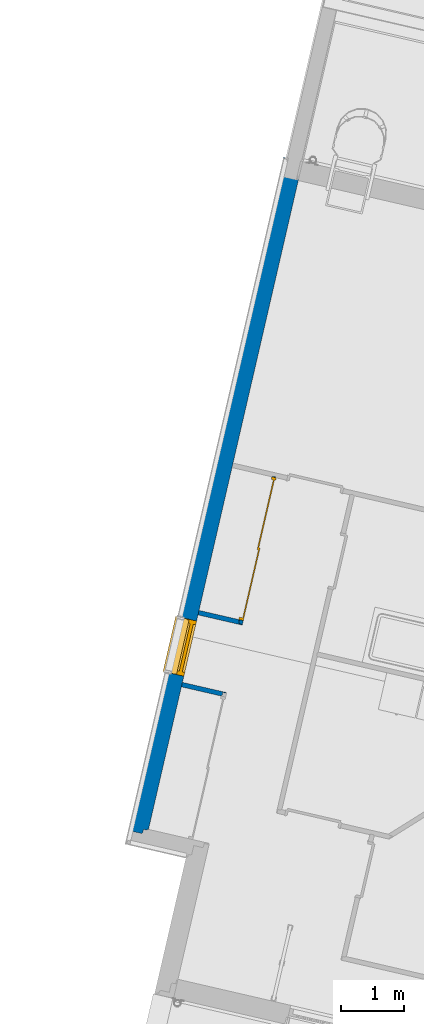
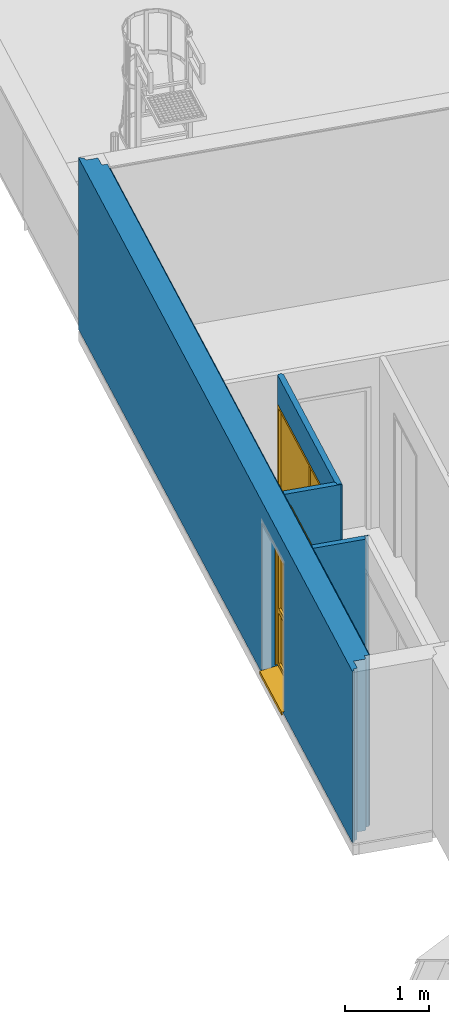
# One storey, part 7 of 47: 4 walls, 1 door, 1 window, 2 openings.
"""IFC2X3 building model written with IfcOpenShell, lengths in metres."""

from ifc_helpers import new_model, entity, si_unit, converted_unit, derived_unit, money_unit, direction, frame, origin_with_axes, place, context, subcontext, project, spatial, open_shell, faceted_brep, surface_model, material, material_list, type_object, element, fill, save


model = new_model("IFC2X3")

# Units and contexts
model_context = context("Model", 3, precision=1e-05, world=origin_with_axes(), true_north=direction((0.0, 1.0)))
body_context = subcontext(model_context, "Body", "Model", "MODEL_VIEW")
ifc_project = project(units=[si_unit("LENGTHUNIT", "METRE"), si_unit("AREAUNIT", "SQUARE_METRE"), si_unit("VOLUMEUNIT", "CUBIC_METRE"), converted_unit("PLANEANGLEUNIT", "DEGREE", entity("IfcPlaneAngleMeasure", 0.0174532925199), si_unit("PLANEANGLEUNIT", "RADIAN"), dimensions=[0, 0, 0, 0, 0, 0, 0]), si_unit("SOLIDANGLEUNIT", "STERADIAN"), money_unit("EUR"), converted_unit("TIMEUNIT", "Year", entity("IfcTimeMeasure", 31556926.0), si_unit("TIMEUNIT", "SECOND"), dimensions=[0, 0, 1, 0, 0, 0, 0]), si_unit("MASSUNIT", "GRAM", prefix="KILO"), si_unit("THERMODYNAMICTEMPERATUREUNIT", "DEGREE_CELSIUS"), si_unit("LUMINOUSINTENSITYUNIT", "LUMEN"), si_unit("ENERGYUNIT", "JOULE", prefix="MEGA"), derived_unit("THERMALCONDUCTANCEUNIT", [(si_unit("POWERUNIT", "WATT"), 1), (si_unit("LENGTHUNIT", "METRE"), -1), (si_unit("THERMODYNAMICTEMPERATUREUNIT", "KELVIN"), -1)]), derived_unit("SPECIFICHEATCAPACITYUNIT", [(si_unit("ENERGYUNIT", "JOULE"), 1), (si_unit("MASSUNIT", "GRAM", prefix="KILO"), -1), (si_unit("THERMODYNAMICTEMPERATUREUNIT", "KELVIN"), -1)]), derived_unit("MASSDENSITYUNIT", [(si_unit("MASSUNIT", "GRAM", prefix="KILO"), 1), (si_unit("VOLUMEUNIT", "CUBIC_METRE"), -1)])], contexts=[model_context])

# Site, building, storey
site_placement = place(None, origin_with_axes())
site = spatial("IfcSite", under=ifc_project, at=site_placement, Name="Site", CompositionType="ELEMENT")
building_placement = place(site_placement, origin_with_axes())
building = spatial("IfcBuilding", under=site, at=building_placement, Name="Bâtiment", CompositionType="ELEMENT")
storey_placement = place(building_placement, frame((0.0, 0.0, 10.88), z_axis=(0.0, 0.0, 1.0), x_axis=(1.0, 0.0, 0.0)))
storey = spatial("IfcBuildingStorey", under=building, at=storey_placement, Name="R+4", CompositionType="ELEMENT", Elevation=10.88)

# Wall, opening, door
ifc_material_1 = material(Name="Finition int - Plaque de plâtre")
ifc_material_2 = material(Name="Isolation - Laine de roche")
ifc_material_list_1 = material_list([ifc_material_1, ifc_material_2, ifc_material_1])
wall_type_1 = type_object("IfcWallType", Name="3 - Cloison 72mm Placostil 74", PredefinedType="USERDEFINED")
wall_1_placement = place(storey_placement, frame((-17.6332548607, -3.42021331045, 0.0), z_axis=(0.0, 0.0, 1.0), x_axis=(-0.224876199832, -0.974387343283, 0.0)))
wall_1 = element("IfcWall", 1, at=wall_1_placement, inside=storey, type_object=wall_type_1, material=ifc_material_list_1, Name="Cloison Placostil 72/48", ObjectType="PARTITIONING", context=body_context, shape_type="Brep", body=[
    faceted_brep([(2.40363159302, 0.0, 0.02), (2.40363159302, 0.0, 2.08), (0.074, 0.0, 2.08), (0.074, 0.0, 2.5), (2.47763159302, 0.0, 2.5), (2.47763159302, 0.0, 0.02), (2.40363159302, -0.013, 0.02), (2.40363159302, -0.013, 2.08), (0.074, -0.013, 2.08), (0.0739999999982, -0.013, 2.5), (2.47763159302, -0.013, 2.5), (2.47763159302, -0.013, 0.02)], [[[0, 1, 2, 3, 4, 5]], [[1, 0, 6, 7]], [[8, 2, 1, 7]], [[2, 8, 9, 3]], [[4, 3, 9, 10]], [[5, 4, 10, 11]], [[6, 0, 5, 11]], [[7, 6, 11, 10, 9, 8]]]),
    faceted_brep([(2.40363159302, -0.013, 0.02), (2.40363159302, -0.013, 2.08), (0.074, -0.013, 2.08), (0.074, -0.013, 0.02), (0.0609999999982, -0.013, 0.02), (0.0609999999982, -0.013, 2.5), (2.46463159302, -0.013, 2.5), (2.46463159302, -0.013, 0.02), (2.40363159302, -0.061, 0.02), (2.40363159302, -0.061, 2.08), (0.074, -0.061, 2.08), (0.074, -0.061, 0.02), (0.0609999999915, -0.061, 0.02), (0.0609999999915, -0.061, 2.5), (2.46463159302, -0.061, 2.5), (2.46463159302, -0.061, 0.02)], [[[0, 1, 2, 3, 4, 5, 6, 7]], [[1, 0, 8, 9]], [[2, 1, 9, 10]], [[3, 2, 10, 11]], [[3, 11, 12, 4]], [[12, 13, 5, 4]], [[6, 5, 13, 14]], [[7, 6, 14, 15]], [[8, 0, 7, 15]], [[9, 8, 15, 14, 13, 12, 11, 10]]]),
    faceted_brep([(2.40363159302, -0.061, 0.02), (2.40363159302, -0.061, 2.08), (0.074, -0.061, 2.08), (0.0739999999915, -0.061, 2.5), (2.41663159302, -0.061, 2.5), (2.41663159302, -0.061, 0.02), (2.40363159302, -0.074, 0.02), (2.40363159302, -0.074, 2.08), (0.074, -0.074, 2.08), (0.0739999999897, -0.074, 2.5), (2.41663159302, -0.074, 2.5), (2.41663159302, -0.074, 0.02)], [[[0, 1, 2, 3, 4, 5]], [[1, 0, 6, 7]], [[8, 2, 1, 7]], [[2, 8, 9, 3]], [[4, 3, 9, 10]], [[5, 4, 10, 11]], [[6, 0, 5, 11]], [[7, 6, 11, 10, 9, 8]]]),
])
opening_1_placement = place(wall_1_placement, frame((1.23881579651, 0.0, 0.0), z_axis=(0.0, 0.0, 1.0), x_axis=(1.0, 0.0, 0.0)))
opening_1 = element("IfcOpeningElement", 2, at=opening_1_placement, cuts=wall_1, Name="Por-002", context=body_context, shape_type="Brep", body=[
    faceted_brep([(1.16481579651, -0.074, 0.0), (-1.16481579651, -0.074, 0.0), (-1.16481579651, 0.074, 0.0), (1.16481579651, 0.074, 0.0), (1.16481579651, -0.074, 2.08), (-1.16481579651, -0.074, 2.08), (-1.16481579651, 0.074, 2.08), (1.16481579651, 0.074, 2.08)], [[[0, 1, 2, 3]], [[0, 4, 5, 1]], [[1, 5, 6, 2]], [[3, 2, 6, 7]], [[4, 0, 3, 7]], [[5, 4, 7, 6]]]),
])
door_style = type_object("IfcDoorStyle", Name="Porte int générique 2019", ConstructionType="NOTDEFINED", OperationType="USERDEFINED", ParameterTakesPrecedence=False, Sizeable=False)
door_placement = place(opening_1_placement, frame((-1.12481579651, 0.0, 0.0), z_axis=(0.0, 0.0, 1.0), x_axis=(1.0, 0.0, 0.0)))
door = element("IfcDoor", 3, at=door_placement, inside=storey, type_object=door_style, Name="Por-002", ObjectType="DOOR", OverallHeight=2.04, OverallWidth=2.24963, context=body_context, shape_type="Brep", body=[
    faceted_brep([(2.28963159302, 0.0, 0.0), (2.24963159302, 0.0, 0.0), (2.24963159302, 0.0, 2.04), (0.0, 0.0, 2.04), (0.0, 0.0, 0.0), (-0.04, 0.0, 0.0), (-0.04, 0.0, 2.08), (2.28963159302, 0.0, 2.08), (2.28963159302, -0.074, 0.0), (2.24963159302, -0.074, 0.0), (2.24963159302, -0.074, 2.04), (0.0, -0.074, 2.04), (0.0, -0.074, 0.0), (-0.04, -0.074, 0.0), (-0.04, -0.074, 2.08), (2.28963159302, -0.074, 2.08)], [[[0, 1, 2, 3, 4, 5, 6, 7]], [[0, 8, 9, 1]], [[1, 9, 10, 2]], [[2, 10, 11, 3]], [[3, 11, 12, 4]], [[5, 4, 12, 13]], [[14, 6, 5, 13]], [[15, 7, 6, 14]], [[8, 0, 7, 15]], [[9, 8, 15, 14, 13, 12, 11, 10]]]),
    faceted_brep([(2.24963159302, 0.0, 0.0), (2.24963159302, -0.02, 0.0), (1.10981579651, -0.02, 0.0), (1.10981579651, 0.0, 0.0), (2.24963159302, 0.0, 2.04), (2.24963159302, -0.02, 2.04), (1.10981579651, -0.02, 2.04), (1.10981579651, 0.0, 2.04)], [[[0, 1, 2, 3]], [[4, 5, 1, 0]], [[1, 5, 6, 2]], [[3, 2, 6, 7]], [[0, 3, 7, 4]], [[7, 6, 5, 4]]]),
    faceted_brep([(1.13981579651, -0.02, 0.0), (1.13981579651, -0.04, 0.0), (0.0, -0.04, 0.0), (0.0, -0.02, 0.0), (1.13981579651, -0.02, 2.04), (1.13981579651, -0.04, 2.04), (0.0, -0.04, 2.04), (0.0, -0.02, 2.04)], [[[0, 1, 2, 3]], [[4, 5, 1, 0]], [[1, 5, 6, 2]], [[3, 2, 6, 7]], [[0, 3, 7, 4]], [[7, 6, 5, 4]]]),
])
fill(opening_1, door)

# Walls
wall_2_placement = place(storey_placement, frame((-18.8939228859, -5.67202556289, 0.0), z_axis=(0.0, 0.0, 1.0), x_axis=(0.974387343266, -0.224876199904, 0.0)))
element("IfcWall", 4, at=wall_2_placement, inside=storey, type_object=wall_type_1, material=ifc_material_list_1, Name="Cloison Placostil 72/48", ObjectType="PARTITIONING", context=body_context, shape_type="Brep", body=[
    faceted_brep([(0.647999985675, 0.061, 0.02), (0.647999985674, 0.074, 0.02), (0.647999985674, 0.074, 2.5), (0.647999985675, 0.061, 2.5), (0.0, 0.074, 0.02), (0.0, 0.061, 0.02), (0.0, 0.074, 2.5), (0.0, 0.061, 2.5)], [[[0, 1, 2, 3]], [[4, 1, 0, 5]], [[1, 4, 6, 2]], [[3, 2, 6, 7]], [[5, 0, 3, 7]], [[4, 5, 7, 6]]]),
    faceted_brep([(0.660999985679, 0.013, 0.02), (0.660999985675, 0.061, 0.02), (0.660999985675, 0.061, 2.5), (0.660999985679, 0.013, 2.5), (0.0, 0.061, 0.02), (0.0, 0.013, 0.02), (0.0, 0.061, 2.5), (0.0, 0.013, 2.5)], [[[0, 1, 2, 3]], [[4, 1, 0, 5]], [[1, 4, 6, 2]], [[3, 2, 6, 7]], [[5, 0, 3, 7]], [[4, 5, 7, 6]]]),
    faceted_brep([(0.70899998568, 0.0, 0.02), (0.708999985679, 0.013, 0.02), (0.708999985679, 0.013, 2.5), (0.70899998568, 0.0, 2.5), (0.0, 0.013, 0.02), (0.0, 0.0, 0.02), (0.0, 0.013, 2.5), (0.0, 0.0, 2.5)], [[[0, 1, 2, 3]], [[4, 1, 0, 5]], [[1, 4, 6, 2]], [[3, 2, 6, 7]], [[5, 0, 3, 7]], [[4, 5, 7, 6]]]),
])
wall_3_placement = place(storey_placement, frame((-19.1412867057, -6.74385164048, 0.0), z_axis=(0.0, 0.0, 1.0), x_axis=(0.974387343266, -0.224876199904, 0.0)))
element("IfcWall", 5, at=wall_3_placement, inside=storey, type_object=wall_type_1, material=ifc_material_list_1, Name="Cloison Placostil 72/48", ObjectType="PARTITIONING", context=body_context, shape_type="Brep", body=[
    faceted_brep([(0.708999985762, -0.013, 0.02), (0.708999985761, 0.0, 0.02), (0.708999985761, 0.0, 2.5), (0.708999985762, -0.013, 2.5), (0.0, 0.0, 0.02), (0.0, -0.013, 0.02), (0.0, 0.0, 2.5), (0.0, -0.013, 2.5)], [[[0, 1, 2, 3]], [[4, 1, 0, 5]], [[1, 4, 6, 2]], [[3, 2, 6, 7]], [[5, 0, 3, 7]], [[4, 5, 7, 6]]]),
    faceted_brep([(0.660999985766, -0.061, 0.02), (0.660999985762, -0.013, 0.02), (0.660999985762, -0.013, 2.5), (0.660999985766, -0.061, 2.5), (0.0, -0.013, 0.02), (0.0, -0.061, 0.02), (0.0, -0.013, 2.5), (0.0, -0.061, 2.5)], [[[0, 1, 2, 3]], [[4, 1, 0, 5]], [[1, 4, 6, 2]], [[3, 2, 6, 7]], [[5, 0, 3, 7]], [[4, 5, 7, 6]]]),
    faceted_brep([(0.647999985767, -0.074, 0.02), (0.647999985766, -0.061, 0.02), (0.647999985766, -0.061, 2.5), (0.647999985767, -0.074, 2.5), (0.0, -0.061, 0.02), (0.0, -0.074, 0.02), (0.0, -0.061, 2.5), (0.0, -0.074, 2.5)], [[[0, 1, 2, 3]], [[4, 1, 0, 5]], [[1, 4, 6, 2]], [[3, 2, 6, 7]], [[5, 0, 3, 7]], [[4, 5, 7, 6]]]),
])

# Wall, opening, window
ifc_material_3 = material(Name="Isolation - Laine de verre")
ifc_material_4 = material(Name="Etanchéité - Pare-vapeur")
ifc_material_5 = material(Name="Bois - OSB 02")
ifc_material_6 = material(Name="Bois - Lattage")
ifc_material_7 = material(Name="Finition ext - Bardage bois")
ifc_material_list_2 = material_list([ifc_material_1, ifc_material_3, ifc_material_4, ifc_material_3, ifc_material_5, ifc_material_6, ifc_material_7])
wall_type_2 = type_object("IfcWallType", Name="1 - Mur Ossature Bois 145 isolé + bardage 310", PredefinedType="ELEMENTEDWALL")
wall_4_placement = place(storey_placement, frame((-17.5211890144, 1.58785569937, 0.02), z_axis=(0.0, 0.0, 1.0), x_axis=(-0.224876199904, -0.974387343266, 0.0)))
wall_4 = element("IfcWall", 6, at=wall_4_placement, inside=storey, type_object=wall_type_2, material=ifc_material_list_2, Name="M_Ext-009", ObjectType="ELEMENTEDWALL", context=body_context, shape_type="Brep", body=[
    faceted_brep([(10.8822631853, 0.295, 0.0), (0.276999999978, 0.295, 0.0), (0.276999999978, 0.295, 2.48), (10.8822631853, 0.295, 2.48), (8.38263159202, 0.295, 2.2), (8.38263159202, 0.295, 2.38), (7.48263159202, 0.295, 2.38), (7.48263159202, 0.295, 2.2), (7.48263159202, 0.295, 0.1), (8.38263159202, 0.295, 0.1), (0.276999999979, 0.277, 0.0), (10.8822631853, 0.277, 0.0), (0.276999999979, 0.277, 2.48), (10.8822631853, 0.277, 2.48), (8.38263159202, 0.277, 2.2), (8.38263159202, 0.277, 2.38), (8.38263159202, 0.277, 0.1), (7.48263159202, 0.277, 2.38), (7.48263159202, 0.277, 2.2), (7.48263159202, 0.277, 0.1)], [[[0, 1, 2, 3], [4, 5, 6, 7, 8, 9]], [[10, 1, 0, 11]], [[1, 10, 12, 2]], [[12, 13, 3, 2]], [[11, 0, 3, 13]], [[14, 15, 5, 4, 9, 16]], [[6, 5, 15, 17]], [[7, 6, 17, 18, 19, 8]], [[8, 19, 16, 9]], [[10, 11, 13, 12], [15, 14, 16, 19, 18, 17]]]),
    faceted_brep([(0.216999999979, 0.277, 0.0), (0.216999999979, 0.277, 2.5), (10.9002631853, 0.277, 2.5), (10.9002631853, 0.277, 0.0), (8.38263159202, 0.277, 2.2), (8.38263159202, 0.277, 2.38), (7.48263159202, 0.277, 2.38), (7.48263159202, 0.277, 2.2), (7.48263159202, 0.277, 0.1), (8.38263159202, 0.277, 0.1), (0.216999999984, 0.217, 0.0), (0.216999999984, 0.217, 2.5), (10.9002631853, 0.217, 2.5), (10.9002631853, 0.217, 0.0), (8.38263159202, 0.217, 2.2), (8.38263159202, 0.217, 2.38), (8.38263159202, 0.217, 0.1), (7.48263159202, 0.217, 2.38), (7.48263159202, 0.217, 2.2), (7.48263159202, 0.217, 0.1)], [[[0, 1, 2, 3], [4, 5, 6, 7, 8, 9]], [[10, 11, 1, 0]], [[1, 11, 12, 2]], [[2, 12, 13, 3]], [[10, 0, 3, 13]], [[14, 15, 5, 4, 9, 16]], [[6, 5, 15, 17]], [[7, 6, 17, 18, 19, 8]], [[8, 19, 16, 9]], [[11, 10, 13, 12], [15, 14, 16, 19, 18, 17]]]),
    faceted_brep([(7.48263159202, 0.207, 0.1), (7.48263159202, 0.207, 0.04), (7.48263159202, 0.216, 0.04), (7.48263159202, 0.216, 0.1), (7.48263159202, 0.217, 0.1), (7.48263159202, 0.217, 2.2), (7.48263159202, 0.217, 2.38), (7.48263159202, 0.207, 2.38), (7.48263159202, 0.207, 2.2), (0.206999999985, 0.207, 0.0), (10.9602631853, 0.207, 0.0), (10.9602631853, 0.207, 2.5), (0.206999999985, 0.207, 2.5), (8.38263159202, 0.207, 2.38), (8.38263159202, 0.207, 2.2), (8.38263159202, 0.207, 0.1), (8.38263159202, 0.207, 0.04), (8.38263159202, 0.216, 0.04), (8.38263159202, 0.216, 0.1), (8.38263159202, 0.217, 0.1), (0.206999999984, 0.217, 2.5), (10.9602631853, 0.217, 2.5), (10.9602631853, 0.217, 0.0), (0.206999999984, 0.217, 0.0), (8.38263159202, 0.217, 2.2), (8.38263159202, 0.217, 2.38)], [[[0, 1, 2, 3, 4, 5, 6, 7, 8]], [[9, 10, 11, 12], [1, 0, 8, 7, 13, 14, 15, 16]], [[1, 16, 17, 2]], [[18, 3, 2, 17]], [[3, 18, 19, 4]], [[20, 21, 22, 23], [5, 4, 19, 24, 25, 6]], [[25, 13, 7, 6]], [[23, 22, 10, 9]], [[11, 10, 22, 21]], [[12, 11, 21, 20]], [[12, 20, 23, 9]], [[18, 17, 16, 15, 14, 13, 25, 24, 19]]]),
    faceted_brep([(7.48263159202, 0.062, 0.1), (7.48263159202, 0.062, 0.04), (7.48263159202, 0.207, 0.04), (7.48263159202, 0.207, 0.1), (7.48263159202, 0.207, 2.2), (7.48263159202, 0.207, 2.38), (7.48263159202, 0.145, 2.38), (7.48263159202, 0.145, 2.2), (7.48263159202, 0.062, 2.2), (10.9702631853, 0.062, 0.0), (10.9702631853, 0.062, 2.5), (0.0619999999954, 0.062, 2.5), (0.0619999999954, 0.062, 0.0), (8.38263159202, 0.062, 2.2), (8.38263159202, 0.062, 0.1), (8.38263159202, 0.062, 0.04), (8.38263159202, 0.207, 0.04), (10.9702631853, 0.207, 2.5), (10.9702631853, 0.207, 0.0), (0.0619999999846, 0.207, 0.0), (0.0619999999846, 0.207, 2.5), (8.38263159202, 0.207, 0.1), (8.38263159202, 0.207, 2.2), (8.38263159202, 0.207, 2.38), (8.38263159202, 0.145, 2.38), (8.38263159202, 0.145, 2.2)], [[[0, 1, 2, 3, 4, 5, 6, 7, 8]], [[9, 10, 11, 12], [1, 0, 8, 13, 14, 15]], [[16, 2, 1, 15]], [[17, 18, 19, 20], [16, 21, 22, 23, 5, 4, 3, 2]], [[23, 24, 6, 5]], [[7, 6, 24, 25]], [[25, 13, 8, 7]], [[9, 18, 17, 10]], [[10, 17, 20, 11]], [[20, 19, 12, 11]], [[18, 9, 12, 19]], [[21, 16, 15, 14, 13, 25, 24, 23, 22]]]),
    faceted_brep([(7.48263159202, 0.05, 0.1), (7.48263159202, 0.05, 0.04), (7.48263159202, 0.062, 0.04), (7.48263159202, 0.062, 0.1), (7.48263159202, 0.062, 2.2), (7.48263159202, 0.05, 2.2), (0.0499999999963, 0.05, 2.5), (0.0499999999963, 0.05, 0.0), (11.1152631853, 0.05, 0.0), (11.1152631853, 0.05, 2.5), (8.38263159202, 0.05, 2.2), (8.38263159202, 0.05, 0.1), (8.38263159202, 0.05, 0.04), (8.38263159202, 0.062, 0.04), (0.0499999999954, 0.062, 0.0), (0.0499999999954, 0.062, 2.5), (11.1152631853, 0.062, 2.5), (11.1152631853, 0.062, 0.0), (8.38263159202, 0.062, 0.1), (8.38263159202, 0.062, 2.2)], [[[0, 1, 2, 3, 4, 5]], [[6, 7, 8, 9], [1, 0, 5, 10, 11, 12]], [[13, 2, 1, 12]], [[14, 15, 16, 17], [13, 18, 19, 4, 3, 2]], [[19, 10, 5, 4]], [[7, 6, 15, 14]], [[7, 14, 17, 8]], [[16, 9, 8, 17]], [[15, 6, 9, 16]], [[18, 13, 12, 11, 10, 19]]]),
    faceted_brep([(7.48263159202, 0.01, 0.1), (7.48263159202, 0.01, 0.04), (7.48263159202, 0.05, 0.04), (7.48263159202, 0.05, 0.1), (7.48263159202, 0.05, 2.2), (7.48263159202, 0.01, 2.2), (0.00999999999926, 0.01, 2.5), (0.00999999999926, 0.01, 0.0), (11.1272631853, 0.01, 0.0), (11.1272631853, 0.01, 2.5), (8.38263159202, 0.01, 2.2), (8.38263159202, 0.01, 0.1), (8.38263159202, 0.01, 0.04), (8.38263159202, 0.05, 0.04), (0.00999999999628, 0.05, 0.0), (0.00999999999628, 0.05, 2.5), (11.1272631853, 0.05, 2.5), (11.1272631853, 0.05, 0.0), (8.38263159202, 0.05, 0.1), (8.38263159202, 0.05, 2.2)], [[[0, 1, 2, 3, 4, 5]], [[6, 7, 8, 9], [1, 0, 5, 10, 11, 12]], [[13, 2, 1, 12]], [[14, 15, 16, 17], [13, 18, 19, 4, 3, 2]], [[19, 10, 5, 4]], [[7, 6, 15, 14]], [[7, 14, 17, 8]], [[16, 9, 8, 17]], [[15, 6, 9, 16]], [[18, 13, 12, 11, 10, 19]]]),
    faceted_brep([(7.48263159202, -0.015, 0.1), (7.48263159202, 0.01, 0.1), (7.48263159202, 0.01, 2.2), (7.48263159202, -0.015, 2.2), (7.48263159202, 0.01, 0.04), (7.48263159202, -0.015, 0.04), (-0.0150000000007, 0.01, 0.0), (-0.0150000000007, 0.01, 2.5), (11.1672631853, 0.01, 2.5), (11.1672631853, 0.01, 0.0), (8.38263159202, 0.01, 0.04), (8.38263159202, 0.01, 0.1), (8.38263159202, 0.01, 2.2), (8.38263159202, -0.015, 2.2), (-0.0149999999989, -0.015, 2.5), (-0.0149999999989, -0.015, 0.0), (11.1672631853, -0.015, 0.0), (11.1672631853, -0.015, 2.5), (8.38263159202, -0.015, 0.1), (8.38263159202, -0.015, 0.04)], [[[0, 1, 2, 3]], [[4, 1, 0, 5]], [[6, 7, 8, 9], [10, 11, 12, 2, 1, 4]], [[12, 13, 3, 2]], [[14, 15, 16, 17], [5, 0, 3, 13, 18, 19]], [[10, 4, 5, 19]], [[15, 14, 7, 6]], [[7, 14, 17, 8]], [[8, 17, 16, 9]], [[15, 6, 9, 16]], [[18, 11, 10, 19]], [[11, 18, 13, 12]]]),
])
opening_2_placement = place(wall_4_placement, frame((7.93263159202, 0.0, 0.1), z_axis=(0.0, 0.0, 1.0), x_axis=(1.0, 0.0, 0.0)))
opening_2 = element("IfcOpeningElement", 7, at=opening_2_placement, cuts=wall_4, Name="MEN 128", context=body_context, shape_type="Brep", body=[
    faceted_brep([(-0.45, 0.675, 0.0), (0.45, 0.675, 0.0), (0.45, 0.175, 0.0), (-0.45, 0.175, 0.0), (-0.45, 0.675, 2.1), (0.45, 0.675, 2.1), (0.45, 0.175, 2.1), (-0.45, 0.175, 2.1)], [[[0, 1, 2, 3]], [[0, 4, 5, 1]], [[1, 5, 6, 2]], [[3, 2, 6, 7]], [[4, 0, 3, 7]], [[5, 4, 7, 6]]]),
    faceted_brep([(-0.45, -0.325, 0.0), (-0.45, -0.325, 2.1), (-0.45, 0.175, 2.1), (-0.45, 0.175, 0.0), (0.45, -0.325, 0.0), (0.45, -0.325, 2.1), (0.45, 0.175, 2.1), (0.45, 0.175, 0.0)], [[[0, 1, 2, 3]], [[0, 4, 5, 1]], [[1, 5, 6, 2]], [[3, 2, 6, 7]], [[4, 0, 3, 7]], [[5, 4, 7, 6]]]),
    faceted_brep([(-0.45, -0.325, 0.0), (-0.45, -0.325, 2.1), (-0.45, 0.175, 2.1), (-0.45, 0.175, 0.0), (0.45, -0.325, 0.0), (0.45, -0.325, 2.1), (0.45, 0.175, 2.1), (0.45, 0.175, 0.0)], [[[0, 1, 2, 3]], [[0, 4, 5, 1]], [[1, 5, 6, 2]], [[3, 2, 6, 7]], [[4, 0, 3, 7]], [[5, 4, 7, 6]]]),
    faceted_brep([(-0.45, 0.645, 2.1), (0.45, 0.645, 2.1), (0.45, 0.145, 2.1), (-0.45, 0.145, 2.1), (-0.45, 0.645, 2.28), (0.45, 0.645, 2.28), (0.45, 0.145, 2.28), (-0.45, 0.145, 2.28)], [[[0, 1, 2, 3]], [[0, 4, 5, 1]], [[1, 5, 6, 2]], [[3, 2, 6, 7]], [[4, 0, 3, 7]], [[5, 4, 7, 6]]]),
    faceted_brep([(-0.45, -0.284, 0.0), (0.45, -0.284, 0.0), (0.45, 0.216, 0.0), (-0.45, 0.216, 0.0), (-0.45, -0.284, -0.06), (0.45, -0.284, -0.06), (0.45, 0.216, -0.06), (-0.45, 0.216, -0.06)], [[[0, 1, 2, 3]], [[0, 4, 5, 1]], [[1, 5, 6, 2]], [[3, 2, 6, 7]], [[4, 0, 3, 7]], [[5, 4, 7, 6]]]),
])
window_style = type_object("IfcWindowStyle", Name="Baie générique 2017 v2", ConstructionType="NOTDEFINED", OperationType="NOTDEFINED", ParameterTakesPrecedence=False, Sizeable=False)
window_placement = place(opening_2_placement, frame((-0.45, 0.0, 0.0), z_axis=(0.0, 0.0, 1.0), x_axis=(1.0, 0.0, 0.0)))
window = element("IfcWindow", 8, at=window_placement, inside=storey, type_object=window_style, Name="MEN 128", ObjectType="WINDOW", OverallHeight=2.1, OverallWidth=0.9, context=body_context, shape_type="SurfaceModel", body=[
    faceted_brep([(0.0, 0.175, 2.1), (0.0, 0.175, 0.0), (0.9, 0.175, 0.0), (0.9, 0.175, 2.1), (0.84, 0.175, 0.85), (0.06, 0.175, 0.85), (0.06, 0.175, 2.05), (0.84, 0.175, 2.05), (0.84, 0.175, 0.78), (0.84, 0.175, 0.05), (0.06, 0.175, 0.05), (0.06, 0.175, 0.78), (0.0, 0.295, 2.1), (0.0, 0.295, 0.0), (0.9, 0.295, 0.0), (0.9, 0.295, 2.1), (0.84, 0.295, 0.85), (0.06, 0.295, 0.85), (0.06, 0.295, 2.05), (0.84, 0.295, 2.05), (0.84, 0.295, 0.78), (0.84, 0.295, 0.05), (0.06, 0.295, 0.05), (0.06, 0.295, 0.78)], [[[0, 1, 2, 3], [4, 5, 6, 7], [8, 9, 10, 11]], [[0, 12, 13, 1]], [[1, 13, 14, 2]], [[2, 14, 15, 3]], [[3, 15, 12, 0]], [[4, 16, 17, 5]], [[5, 17, 18, 6]], [[6, 18, 19, 7]], [[16, 4, 7, 19]], [[8, 20, 21, 9]], [[9, 21, 22, 10]], [[23, 11, 10, 22]], [[20, 8, 11, 23]], [[14, 13, 12, 15], [16, 19, 18, 17], [20, 23, 22, 21]]]),
    faceted_brep([(0.84, 0.255, 2.05), (0.84, 0.255, 0.85), (0.06, 0.255, 0.85), (0.06, 0.255, 2.05), (0.77, 0.255, 1.98), (0.13, 0.255, 1.98), (0.13, 0.255, 0.9), (0.77, 0.255, 0.9), (0.84, 0.205, 2.05), (0.84, 0.205, 0.85), (0.06, 0.205, 0.85), (0.06, 0.205, 2.05), (0.77, 0.205, 1.98), (0.13, 0.205, 1.98), (0.13, 0.205, 0.9), (0.77, 0.205, 0.9)], [[[0, 1, 2, 3], [4, 5, 6, 7]], [[1, 0, 8, 9]], [[10, 2, 1, 9]], [[11, 3, 2, 10]], [[0, 3, 11, 8]], [[5, 4, 12, 13]], [[14, 6, 5, 13]], [[15, 7, 6, 14]], [[4, 7, 15, 12]], [[11, 10, 9, 8], [15, 14, 13, 12]]]),
    surface_model("IfcShellBasedSurfaceModel", [(0.06, 0.255, 0.85), (0.06, 0.23, 0.85), (0.06, 0.23, 2.05), (0.06, 0.255, 2.05)], [open_shell([[[0, 1, 2, 3]]])]),
    surface_model("IfcShellBasedSurfaceModel", [(0.84, 0.255, 0.85), (0.84, 0.23, 0.85), (0.84, 0.23, 2.05), (0.84, 0.255, 2.05)], [open_shell([[[0, 1, 2, 3]]])]),
    surface_model("IfcShellBasedSurfaceModel", [(0.06, 0.255, 0.85), (0.06, 0.23, 0.85), (0.84, 0.23, 0.85), (0.84, 0.255, 0.85)], [open_shell([[[0, 1, 2, 3]]])]),
    surface_model("IfcShellBasedSurfaceModel", [(0.06, 0.255, 2.05), (0.06, 0.23, 2.05), (0.84, 0.23, 2.05), (0.84, 0.255, 2.05)], [open_shell([[[0, 1, 2, 3]]])]),
    surface_model("IfcShellBasedSurfaceModel", [(0.06, 0.23, 0.85), (0.06, 0.205, 0.85), (0.06, 0.205, 2.05), (0.06, 0.23, 2.05)], [open_shell([[[0, 1, 2, 3]]])]),
    surface_model("IfcShellBasedSurfaceModel", [(0.84, 0.23, 0.85), (0.84, 0.205, 0.85), (0.84, 0.205, 2.05), (0.84, 0.23, 2.05)], [open_shell([[[0, 1, 2, 3]]])]),
    surface_model("IfcShellBasedSurfaceModel", [(0.06, 0.23, 0.85), (0.06, 0.205, 0.85), (0.84, 0.205, 0.85), (0.84, 0.23, 0.85)], [open_shell([[[0, 1, 2, 3]]])]),
    surface_model("IfcShellBasedSurfaceModel", [(0.06, 0.23, 2.05), (0.06, 0.205, 2.05), (0.84, 0.205, 2.05), (0.84, 0.23, 2.05)], [open_shell([[[0, 1, 2, 3]]])]),
    faceted_brep([(0.13, 0.2325, 0.9), (0.77, 0.2325, 0.9), (0.77, 0.2275, 0.9), (0.13, 0.2275, 0.9), (0.13, 0.2325, 1.98), (0.77, 0.2325, 1.98), (0.77, 0.2275, 1.98), (0.13, 0.2275, 1.98)], [[[0, 1, 2, 3]], [[0, 4, 5, 1]], [[1, 5, 6, 2]], [[3, 2, 6, 7]], [[4, 0, 3, 7]], [[5, 4, 7, 6]]]),
    faceted_brep([(0.84, 0.255, 0.78), (0.84, 0.255, 0.05), (0.06, 0.255, 0.05), (0.06, 0.255, 0.78), (0.77, 0.255, 0.71), (0.13, 0.255, 0.71), (0.13, 0.255, 0.1), (0.77, 0.255, 0.1), (0.84, 0.205, 0.78), (0.84, 0.205, 0.05), (0.06, 0.205, 0.05), (0.06, 0.205, 0.78), (0.77, 0.205, 0.71), (0.13, 0.205, 0.71), (0.13, 0.205, 0.1), (0.77, 0.205, 0.1)], [[[0, 1, 2, 3], [4, 5, 6, 7]], [[1, 0, 8, 9]], [[10, 2, 1, 9]], [[11, 3, 2, 10]], [[0, 3, 11, 8]], [[5, 4, 12, 13]], [[14, 6, 5, 13]], [[15, 7, 6, 14]], [[4, 7, 15, 12]], [[11, 10, 9, 8], [15, 14, 13, 12]]]),
    surface_model("IfcShellBasedSurfaceModel", [(0.06, 0.255, 0.05), (0.06, 0.23, 0.05), (0.06, 0.23, 0.78), (0.06, 0.255, 0.78)], [open_shell([[[0, 1, 2, 3]]])]),
    surface_model("IfcShellBasedSurfaceModel", [(0.84, 0.255, 0.05), (0.84, 0.23, 0.05), (0.84, 0.23, 0.78), (0.84, 0.255, 0.78)], [open_shell([[[0, 1, 2, 3]]])]),
    surface_model("IfcShellBasedSurfaceModel", [(0.06, 0.255, 0.05), (0.06, 0.23, 0.05), (0.84, 0.23, 0.05), (0.84, 0.255, 0.05)], [open_shell([[[0, 1, 2, 3]]])]),
    surface_model("IfcShellBasedSurfaceModel", [(0.06, 0.255, 0.78), (0.06, 0.23, 0.78), (0.84, 0.23, 0.78), (0.84, 0.255, 0.78)], [open_shell([[[0, 1, 2, 3]]])]),
    surface_model("IfcShellBasedSurfaceModel", [(0.06, 0.23, 0.05), (0.06, 0.205, 0.05), (0.06, 0.205, 0.78), (0.06, 0.23, 0.78)], [open_shell([[[0, 1, 2, 3]]])]),
    surface_model("IfcShellBasedSurfaceModel", [(0.84, 0.23, 0.05), (0.84, 0.205, 0.05), (0.84, 0.205, 0.78), (0.84, 0.23, 0.78)], [open_shell([[[0, 1, 2, 3]]])]),
    surface_model("IfcShellBasedSurfaceModel", [(0.06, 0.23, 0.05), (0.06, 0.205, 0.05), (0.84, 0.205, 0.05), (0.84, 0.23, 0.05)], [open_shell([[[0, 1, 2, 3]]])]),
    surface_model("IfcShellBasedSurfaceModel", [(0.06, 0.23, 0.78), (0.06, 0.205, 0.78), (0.84, 0.205, 0.78), (0.84, 0.23, 0.78)], [open_shell([[[0, 1, 2, 3]]])]),
    faceted_brep([(0.13, 0.2325, 0.1), (0.77, 0.2325, 0.1), (0.77, 0.2275, 0.1), (0.13, 0.2275, 0.1), (0.13, 0.2325, 0.71), (0.77, 0.2325, 0.71), (0.77, 0.2275, 0.71), (0.13, 0.2275, 0.71)], [[[0, 1, 2, 3]], [[0, 4, 5, 1]], [[1, 5, 6, 2]], [[3, 2, 6, 7]], [[4, 0, 3, 7]], [[5, 4, 7, 6]]]),
    faceted_brep([(0.0, 0.145, 0.0), (0.025, 0.145, 0.0), (0.025, 0.145, 2.1), (0.0, 0.145, 2.1), (0.0, 0.173, 0.0), (0.025, 0.173, 0.0), (0.025, 0.171, 0.0), (0.002, 0.171, 0.0), (0.002, 0.147, 0.0), (0.025, 0.147, 0.0), (0.025, 0.147, 2.1), (0.002, 0.147, 2.1), (0.002, 0.171, 2.1), (0.025, 0.171, 2.1), (0.025, 0.173, 2.1), (0.0, 0.173, 2.1)], [[[0, 1, 2, 3]], [[0, 4, 5, 6, 7, 8, 9, 1]], [[1, 9, 10, 2]], [[3, 2, 10, 11, 12, 13, 14, 15]], [[4, 0, 3, 15]], [[5, 4, 15, 14]], [[6, 5, 14, 13]], [[7, 6, 13, 12]], [[8, 7, 12, 11]], [[9, 8, 11, 10]]]),
    faceted_brep([(0.9, 0.145, 0.0), (0.9, 0.145, 2.1), (0.875, 0.145, 2.1), (0.875, 0.145, 0.0), (0.9, 0.173, 0.0), (0.9, 0.173, 2.1), (0.875, 0.173, 2.1), (0.875, 0.171, 2.1), (0.898, 0.171, 2.1), (0.898, 0.147, 2.1), (0.875, 0.147, 2.1), (0.875, 0.147, 0.0), (0.898, 0.147, 0.0), (0.898, 0.171, 0.0), (0.875, 0.171, 0.0), (0.875, 0.173, 0.0)], [[[0, 1, 2, 3]], [[4, 5, 1, 0]], [[1, 5, 6, 7, 8, 9, 10, 2]], [[3, 2, 10, 11]], [[0, 3, 11, 12, 13, 14, 15, 4]], [[15, 6, 5, 4]], [[14, 7, 6, 15]], [[13, 8, 7, 14]], [[12, 9, 8, 13]], [[11, 10, 9, 12]]]),
    faceted_brep([(0.898, 0.147, 2.1), (0.002, 0.147, 2.1), (0.002, 0.147, 2.278), (0.898, 0.147, 2.278), (0.898, 0.145, 2.1), (0.002, 0.145, 2.1), (0.002, 0.145, 2.28), (0.002, 0.345, 2.28), (0.002, 0.345, 2.1), (0.002, 0.343, 2.1), (0.002, 0.343, 2.278), (0.898, 0.343, 2.278), (0.898, 0.343, 2.1), (0.898, 0.345, 2.1), (0.898, 0.345, 2.28), (0.898, 0.145, 2.28)], [[[0, 1, 2, 3]], [[4, 5, 1, 0]], [[1, 5, 6, 7, 8, 9, 10, 2]], [[3, 2, 10, 11]], [[0, 3, 11, 12, 13, 14, 15, 4]], [[15, 6, 5, 4]], [[14, 7, 6, 15]], [[13, 8, 7, 14]], [[12, 9, 8, 13]], [[11, 10, 9, 12]]]),
    faceted_brep([(0.898, 0.247469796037, 2.17436337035), (0.898, 0.255, 2.19), (0.898, 0.247469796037, 2.20563662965), (0.898, 0.230549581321, 2.20949855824), (0.898, 0.216980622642, 2.19867767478), (0.898, 0.216980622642, 2.18132232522), (0.898, 0.230549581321, 2.17050144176), (0.002, 0.247469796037, 2.17436337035), (0.002, 0.255, 2.19), (0.002, 0.247469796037, 2.20563662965), (0.002, 0.230549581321, 2.20949855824), (0.002, 0.216980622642, 2.19867767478), (0.002, 0.216980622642, 2.18132232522), (0.002, 0.230549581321, 2.17050144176)], [[[0, 1, 2, 3, 4, 5, 6]], [[0, 7, 8, 1]], [[1, 8, 9, 2]], [[2, 9, 10, 3]], [[3, 10, 11, 4]], [[4, 11, 12, 5]], [[5, 12, 13, 6]], [[6, 13, 7, 0]], [[7, 13, 12, 11, 10, 9, 8]]]),
    faceted_brep([(0.888, 0.305275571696, 2.15615706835), (0.888, 0.313, 2.19), (0.888, 0.305275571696, 2.22384293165), (0.888, 0.283632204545, 2.25098285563), (0.888, 0.252356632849, 2.26604437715), (0.888, 0.217643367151, 2.26604437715), (0.888, 0.186367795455, 2.25098285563), (0.888, 0.164724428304, 2.22384293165), (0.888, 0.157, 2.19), (0.888, 0.164724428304, 2.15615706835), (0.888, 0.186367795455, 2.12901714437), (0.888, 0.217643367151, 2.11395562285), (0.888, 0.252356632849, 2.11395562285), (0.888, 0.283632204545, 2.12901714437), (0.012, 0.305275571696, 2.15615706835), (0.012, 0.313, 2.19), (0.012, 0.305275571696, 2.22384293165), (0.012, 0.283632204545, 2.25098285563), (0.012, 0.252356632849, 2.26604437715), (0.012, 0.217643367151, 2.26604437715), (0.012, 0.186367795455, 2.25098285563), (0.012, 0.164724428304, 2.22384293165), (0.012, 0.157, 2.19), (0.012, 0.164724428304, 2.15615706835), (0.012, 0.186367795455, 2.12901714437), (0.012, 0.217643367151, 2.11395562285), (0.012, 0.252356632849, 2.11395562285), (0.012, 0.283632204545, 2.12901714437)], [[[0, 1, 2, 3, 4, 5, 6, 7, 8, 9, 10, 11, 12, 13]], [[0, 14, 15, 1]], [[1, 15, 16, 2]], [[2, 16, 17, 3]], [[3, 17, 18, 4]], [[4, 18, 19, 5]], [[5, 19, 20, 6]], [[6, 20, 21, 7]], [[7, 21, 22, 8]], [[8, 22, 23, 9]], [[9, 23, 24, 10]], [[10, 24, 25, 11]], [[11, 25, 26, 12]], [[12, 26, 27, 13]], [[13, 27, 14, 0]], [[14, 27, 26, 25, 24, 23, 22, 21, 20, 19, 18, 17, 16, 15]]]),
    faceted_brep([(0.9, 0.345, 2.1), (0.898, 0.345, 2.1), (0.898, 0.345, 2.28), (0.9, 0.345, 2.28), (0.9, 0.145, 2.1), (0.898, 0.145, 2.1), (0.898, 0.145, 2.28), (0.9, 0.145, 2.28)], [[[0, 1, 2, 3]], [[4, 5, 1, 0]], [[1, 5, 6, 2]], [[3, 2, 6, 7]], [[0, 3, 7, 4]], [[7, 6, 5, 4]]]),
    faceted_brep([(0.002, 0.345, 2.1), (0.0, 0.345, 2.1), (0.0, 0.345, 2.28), (0.002, 0.345, 2.28), (0.002, 0.145, 2.1), (0.0, 0.145, 2.1), (0.0, 0.145, 2.28), (0.002, 0.145, 2.28)], [[[0, 1, 2, 3]], [[4, 5, 1, 0]], [[1, 5, 6, 2]], [[3, 2, 6, 7]], [[0, 3, 7, 4]], [[7, 6, 5, 4]]]),
    faceted_brep([(0.898, 0.171, 2.1), (0.002, 0.171, 2.1), (0.002, 0.343, 2.1), (0.898, 0.343, 2.1), (0.898, 0.171, 2.102), (0.002, 0.171, 2.102), (0.002, 0.343, 2.102), (0.898, 0.343, 2.102)], [[[0, 1, 2, 3]], [[4, 5, 1, 0]], [[1, 5, 6, 2]], [[3, 2, 6, 7]], [[0, 3, 7, 4]], [[7, 6, 5, 4]]]),
    faceted_brep([(0.012, 0.169, 2.1), (0.012, 0.169, 2.19), (0.888, 0.169, 2.19), (0.888, 0.169, 2.1), (0.012, 0.149, 2.1), (0.012, 0.149, 2.19), (0.888, 0.149, 2.19), (0.888, 0.149, 2.1)], [[[0, 1, 2, 3]], [[1, 0, 4, 5]], [[2, 1, 5, 6]], [[3, 2, 6, 7]], [[4, 0, 3, 7]], [[5, 4, 7, 6]]]),
    faceted_brep([(0.9, 0.216, 0.0), (0.9, 0.216, -0.02), (0.0, 0.216, -0.02), (0.0, 0.216, 0.0), (0.9, 0.213, 0.0), (0.9, 0.213, -0.0174247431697), (0.9, -0.045, -0.0574247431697), (0.9, -0.045, -0.107242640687), (0.9, -0.0298786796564, -0.0891213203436), (0.9, -0.032, -0.087), (0.9, -0.042, -0.1), (0.9, -0.042, -0.06), (0.0, -0.042, -0.06), (0.0, -0.042, -0.1), (0.0, -0.032, -0.087), (0.0, -0.0298786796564, -0.0891213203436), (0.0, -0.045, -0.107242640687), (0.0, -0.045, -0.0574247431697), (0.0, 0.213, -0.0174247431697), (0.0, 0.213, 0.0)], [[[0, 1, 2, 3]], [[0, 4, 5, 6, 7, 8, 9, 10, 11, 1]], [[1, 11, 12, 2]], [[3, 2, 12, 13, 14, 15, 16, 17, 18, 19]], [[4, 0, 3, 19]], [[5, 4, 19, 18]], [[6, 5, 18, 17]], [[7, 6, 17, 16]], [[8, 7, 16, 15]], [[9, 8, 15, 14]], [[10, 9, 14, 13]], [[11, 10, 13, 12]]]),
])
fill(opening_2, window)

save(model, "model.ifc")
